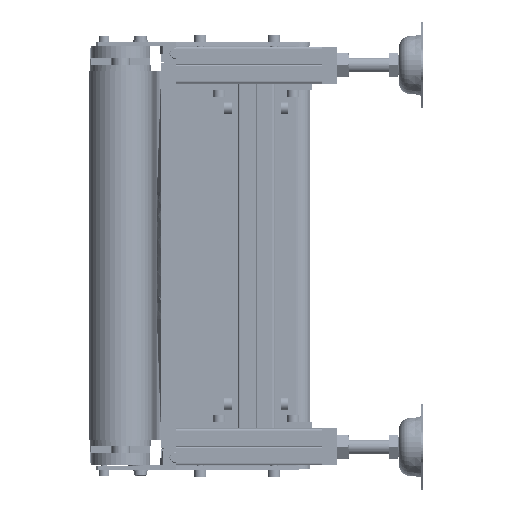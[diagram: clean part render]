
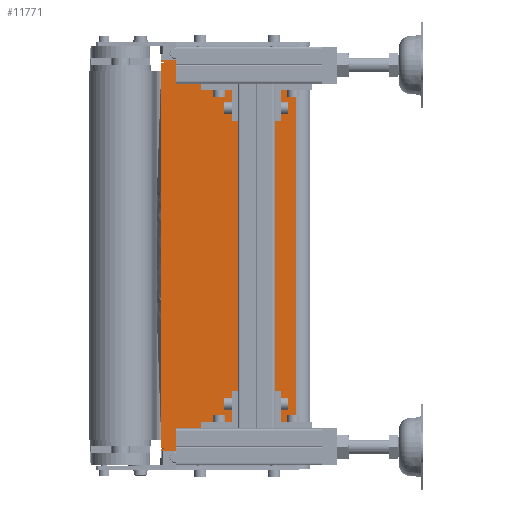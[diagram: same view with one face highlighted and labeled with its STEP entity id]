
A CAD part, left-side view. The second image highlights one B-rep face of the part: STEP entity #11771.
In plain terms, the highlighted planar face has unit normal (-1, 0, 0).
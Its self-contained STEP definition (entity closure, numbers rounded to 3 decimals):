
#6579=PLANE('',#76197);
#7700=FACE_BOUND('',#19882,.T.);
#7701=FACE_BOUND('',#19883,.T.);
#7702=FACE_BOUND('',#19884,.T.);
#11771=ADVANCED_FACE('',(#7700,#7701,#7702),#6579,.F.);
#19882=EDGE_LOOP('',(#49014,#49015));
#19883=EDGE_LOOP('',(#49016,#49017,#49018,#49019,#49020,#49021,#49022,#49023,
#49024,#49025,#49026,#49027,#49028,#49029,#49030,#49031));
#19884=EDGE_LOOP('',(#49032,#49033));
#25822=LINE('',#122486,#32478);
#25823=LINE('',#122491,#32479);
#25824=LINE('',#122493,#32480);
#25825=LINE('',#122495,#32481);
#25826=LINE('',#122499,#32482);
#25827=LINE('',#122501,#32483);
#25828=LINE('',#122503,#32484);
#25829=LINE('',#122505,#32485);
#25830=LINE('',#122507,#32486);
#25831=LINE('',#122509,#32487);
#25832=LINE('',#122511,#32488);
#25833=LINE('',#122513,#32489);
#25834=LINE('',#122515,#32490);
#25835=LINE('',#122517,#32491);
#32478=VECTOR('',#91188,1.);
#32479=VECTOR('',#91191,1.);
#32480=VECTOR('',#91192,1.);
#32481=VECTOR('',#91193,1.);
#32482=VECTOR('',#91196,1.);
#32483=VECTOR('',#91197,1.);
#32484=VECTOR('',#91198,1.);
#32485=VECTOR('',#91199,1.);
#32486=VECTOR('',#91200,1.);
#32487=VECTOR('',#91201,1.);
#32488=VECTOR('',#91202,1.);
#32489=VECTOR('',#91203,1.);
#32490=VECTOR('',#91204,1.);
#32491=VECTOR('',#91205,1.);
#49014=ORIENTED_EDGE('',*,*,#67414,.F.);
#49015=ORIENTED_EDGE('',*,*,#68127,.F.);
#49016=ORIENTED_EDGE('',*,*,#68128,.T.);
#49017=ORIENTED_EDGE('',*,*,#68129,.T.);
#49018=ORIENTED_EDGE('',*,*,#68130,.T.);
#49019=ORIENTED_EDGE('',*,*,#68131,.T.);
#49020=ORIENTED_EDGE('',*,*,#68132,.T.);
#49021=ORIENTED_EDGE('',*,*,#68133,.T.);
#49022=ORIENTED_EDGE('',*,*,#68134,.T.);
#49023=ORIENTED_EDGE('',*,*,#68135,.T.);
#49024=ORIENTED_EDGE('',*,*,#68136,.F.);
#49025=ORIENTED_EDGE('',*,*,#68137,.F.);
#49026=ORIENTED_EDGE('',*,*,#68138,.T.);
#49027=ORIENTED_EDGE('',*,*,#68139,.F.);
#49028=ORIENTED_EDGE('',*,*,#68140,.F.);
#49029=ORIENTED_EDGE('',*,*,#68141,.F.);
#49030=ORIENTED_EDGE('',*,*,#68142,.F.);
#49031=ORIENTED_EDGE('',*,*,#68143,.T.);
#49032=ORIENTED_EDGE('',*,*,#68144,.F.);
#49033=ORIENTED_EDGE('',*,*,#67412,.F.);
#58421=VERTEX_POINT('',#120747);
#58422=VERTEX_POINT('',#120749);
#58423=VERTEX_POINT('',#120768);
#58424=VERTEX_POINT('',#120769);
#59072=VERTEX_POINT('',#122487);
#59073=VERTEX_POINT('',#122488);
#59074=VERTEX_POINT('',#122490);
#59075=VERTEX_POINT('',#122492);
#59076=VERTEX_POINT('',#122494);
#59077=VERTEX_POINT('',#122496);
#59078=VERTEX_POINT('',#122498);
#59079=VERTEX_POINT('',#122500);
#59080=VERTEX_POINT('',#122502);
#59081=VERTEX_POINT('',#122504);
#59082=VERTEX_POINT('',#122506);
#59083=VERTEX_POINT('',#122508);
#59084=VERTEX_POINT('',#122510);
#59085=VERTEX_POINT('',#122512);
#59086=VERTEX_POINT('',#122514);
#59087=VERTEX_POINT('',#122516);
#67412=EDGE_CURVE('',#58421,#58422,#71263,.T.);
#67414=EDGE_CURVE('',#58423,#58424,#71265,.T.);
#68127=EDGE_CURVE('',#58424,#58423,#71616,.T.);
#68128=EDGE_CURVE('',#59072,#59073,#25822,.T.);
#68129=EDGE_CURVE('',#59073,#59074,#71617,.T.);
#68130=EDGE_CURVE('',#59074,#59075,#25823,.T.);
#68131=EDGE_CURVE('',#59075,#59076,#25824,.T.);
#68132=EDGE_CURVE('',#59076,#59077,#25825,.T.);
#68133=EDGE_CURVE('',#59077,#59078,#71618,.T.);
#68134=EDGE_CURVE('',#59078,#59079,#25826,.T.);
#68135=EDGE_CURVE('',#59079,#59080,#25827,.T.);
#68136=EDGE_CURVE('',#59081,#59080,#25828,.T.);
#68137=EDGE_CURVE('',#59082,#59081,#25829,.T.);
#68138=EDGE_CURVE('',#59082,#59083,#25830,.T.);
#68139=EDGE_CURVE('',#59084,#59083,#25831,.T.);
#68140=EDGE_CURVE('',#59085,#59084,#25832,.T.);
#68141=EDGE_CURVE('',#59086,#59085,#25833,.T.);
#68142=EDGE_CURVE('',#59087,#59086,#25834,.T.);
#68143=EDGE_CURVE('',#59087,#59072,#25835,.T.);
#68144=EDGE_CURVE('',#58422,#58421,#71619,.T.);
#71263=CIRCLE('',#75690,3.8);
#71265=CIRCLE('',#75692,3.8);
#71616=CIRCLE('',#76193,3.8);
#71617=CIRCLE('',#76194,0.5);
#71618=CIRCLE('',#76195,0.5);
#71619=CIRCLE('',#76196,3.8);
#75690=AXIS2_PLACEMENT_3D('',#120748,#89836,#89837);
#75692=AXIS2_PLACEMENT_3D('',#120767,#89840,#89841);
#76193=AXIS2_PLACEMENT_3D('',#122485,#91186,#91187);
#76194=AXIS2_PLACEMENT_3D('',#122489,#91189,#91190);
#76195=AXIS2_PLACEMENT_3D('',#122497,#91194,#91195);
#76196=AXIS2_PLACEMENT_3D('',#122518,#91206,#91207);
#76197=AXIS2_PLACEMENT_3D('',#122519,#91208,#91209);
#89836=DIRECTION('',(-1.,0.,0.));
#89837=DIRECTION('',(0.,0.,-1.));
#89840=DIRECTION('',(-1.,0.,0.));
#89841=DIRECTION('',(0.,0.,-1.));
#91186=DIRECTION('',(-1.,0.,0.));
#91187=DIRECTION('',(0.,0.,-1.));
#91188=DIRECTION('',(0.,-1.,0.));
#91189=DIRECTION('',(1.,0.,0.));
#91190=DIRECTION('',(0.,0.,-1.));
#91191=DIRECTION('',(0.,1.,0.));
#91192=DIRECTION('',(0.,0.,-1.));
#91193=DIRECTION('',(0.,-1.,0.));
#91194=DIRECTION('',(1.,0.,0.));
#91195=DIRECTION('',(0.,0.,-1.));
#91196=DIRECTION('',(0.,1.,0.));
#91197=DIRECTION('',(0.,0.,-1.));
#91198=DIRECTION('',(0.,1.,0.));
#91199=DIRECTION('',(0.,0.,1.));
#91200=DIRECTION('',(0.,-1.,0.));
#91201=DIRECTION('',(0.,0.,-1.));
#91202=DIRECTION('',(0.,-1.,0.));
#91203=DIRECTION('',(0.,0.,1.));
#91204=DIRECTION('',(0.,-1.,0.));
#91205=DIRECTION('',(0.,0.,-1.));
#91206=DIRECTION('',(-1.,0.,0.));
#91207=DIRECTION('',(0.,0.,-1.));
#91208=DIRECTION('',(1.,0.,0.));
#91209=DIRECTION('',(0.,0.,1.));
#120747=CARTESIAN_POINT('',(-125.,-64.5,-160.2));
#120748=CARTESIAN_POINT('',(-125.,-64.5,-164.));
#120749=CARTESIAN_POINT('',(-125.,-64.5,-167.8));
#120767=CARTESIAN_POINT('',(-125.,-64.5,164.));
#120768=CARTESIAN_POINT('',(-125.,-64.5,167.8));
#120769=CARTESIAN_POINT('',(-125.,-64.5,160.2));
#122485=CARTESIAN_POINT('',(-125.,-64.5,164.));
#122486=CARTESIAN_POINT('',(-125.,-22.5,157.));
#122487=CARTESIAN_POINT('',(-125.,-23.5,157.));
#122488=CARTESIAN_POINT('',(-125.,-25.,157.));
#122489=CARTESIAN_POINT('',(-125.,-25.,156.5));
#122490=CARTESIAN_POINT('',(-125.,-25.,156.));
#122491=CARTESIAN_POINT('',(-125.,-25.,156.));
#122492=CARTESIAN_POINT('',(-125.,-23.5,156.));
#122493=CARTESIAN_POINT('',(-125.,-23.5,169.));
#122494=CARTESIAN_POINT('',(-125.,-23.5,-156.));
#122495=CARTESIAN_POINT('',(-125.,-23.5,-156.));
#122496=CARTESIAN_POINT('',(-125.,-25.,-156.));
#122497=CARTESIAN_POINT('',(-125.,-25.,-156.5));
#122498=CARTESIAN_POINT('',(-125.,-25.,-157.));
#122499=CARTESIAN_POINT('',(-125.,-25.,-157.));
#122500=CARTESIAN_POINT('',(-125.,-23.5,-157.));
#122501=CARTESIAN_POINT('',(-125.,-23.5,169.));
#122502=CARTESIAN_POINT('',(-125.,-23.5,-159.));
#122503=CARTESIAN_POINT('',(-125.,-23.5,-159.));
#122504=CARTESIAN_POINT('',(-125.,-41.,-159.));
#122505=CARTESIAN_POINT('',(-125.,-41.,169.));
#122506=CARTESIAN_POINT('',(-125.,-41.,-169.));
#122507=CARTESIAN_POINT('',(-125.,-23.5,-169.));
#122508=CARTESIAN_POINT('',(-125.,-132.5,-169.));
#122509=CARTESIAN_POINT('',(-125.,-132.5,169.));
#122510=CARTESIAN_POINT('',(-125.,-132.5,169.));
#122511=CARTESIAN_POINT('',(-125.,-23.5,169.));
#122512=CARTESIAN_POINT('',(-125.,-41.,169.));
#122513=CARTESIAN_POINT('',(-125.,-41.,169.));
#122514=CARTESIAN_POINT('',(-125.,-41.,159.));
#122515=CARTESIAN_POINT('',(-125.,-23.5,159.));
#122516=CARTESIAN_POINT('',(-125.,-23.5,159.));
#122517=CARTESIAN_POINT('',(-125.,-23.5,169.));
#122518=CARTESIAN_POINT('',(-125.,-64.5,-164.));
#122519=CARTESIAN_POINT('',(-125.,-23.5,169.));
